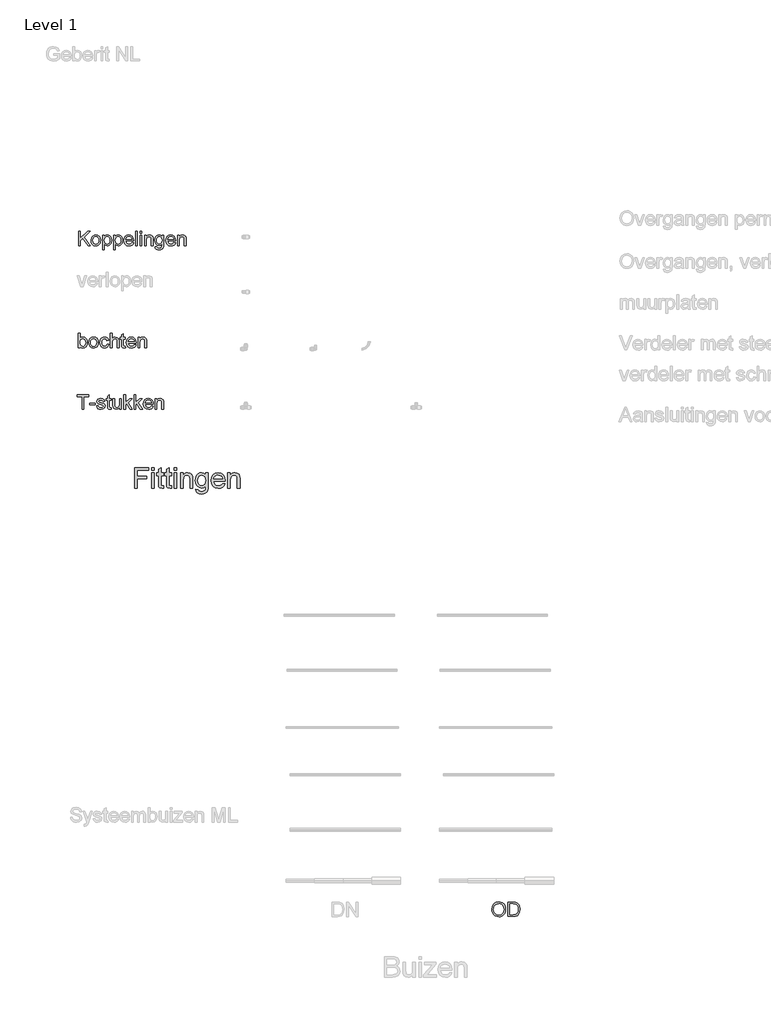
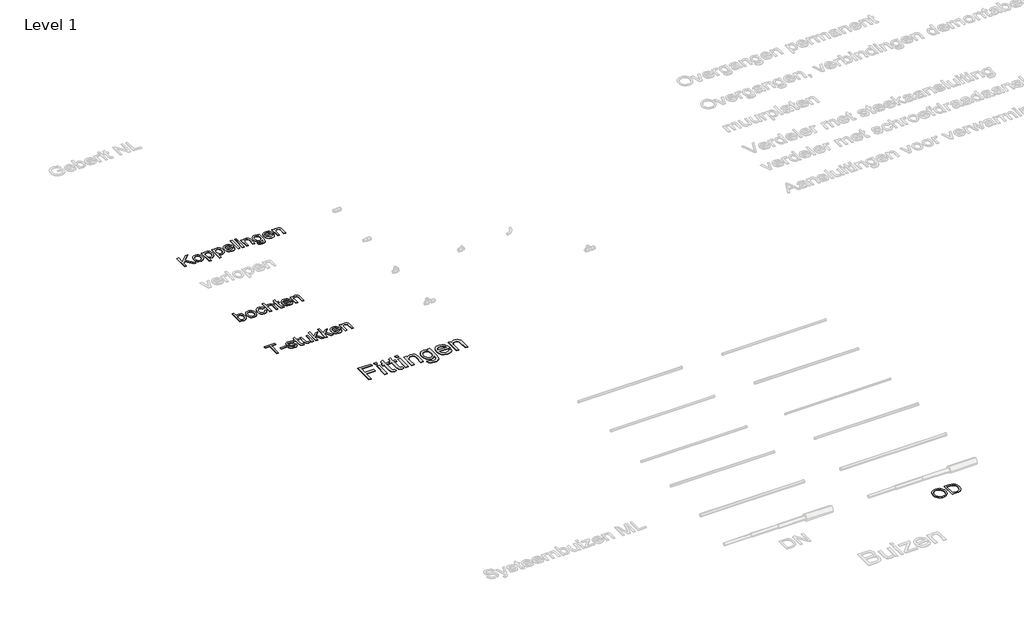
# One storey, part 3 of 9: 5 proxies.
"""IFC4 building model written with IfcOpenShell, lengths in millimetres."""

from ifc_helpers import new_model, si_unit, origin, origin_with_axes, place, context, project, spatial, polyline, outline, extrude, element, save

model = new_model("IFC4")

# Units and contexts
model_context = context("Model", 3, world=origin())
ifc_project = project(units=[si_unit("LENGTHUNIT", "METRE", prefix="MILLI")], contexts=[model_context])

# Site, building, storey
site = spatial("IfcSite", under=ifc_project)
building = spatial("IfcBuilding", under=site)
storey = spatial("IfcBuildingStorey", under=building, Name="Level 1", Elevation=0.0)

# Proxies
placement = place(None, origin())
element("IfcBuildingElementProxy", 1, Name="medium", ObjectType="medium", at=placement, inside=storey, context=model_context, shape_type="SweptSolid", body=[
    extrude(outline(polyline([(-1296.2253301, 3021.7892009), (-1296.2253301, 3222.7018212), (-1161.2371633, 3222.7018212), (-1161.2371633, 3197.5877437), (-1271.1112525, 3197.5877437), (-1271.1112525, 3137.9418095), (-1176.9334618, 3137.9418095), (-1176.9334618, 3112.827732), (-1271.1112525, 3112.827732), (-1271.1112525, 3021.7892009), (-1296.2253301, 3021.7892009)])), origin_with_axes(), (0.0, 0.0, 1.0), 5.0),
    extrude(outline(polyline([(-1129.8445664, 3197.5877437), (-1129.8445664, 3222.7018212), (-1104.7304888, 3222.7018212), (-1104.7304888, 3197.5877437), (-1129.8445664, 3197.5877437)])), origin_with_axes(), (0.0, 0.0, 1.0), 5.0),
    extrude(outline(polyline([(-1129.8445664, 3021.7892009), (-1129.8445664, 3169.3344064), (-1104.7304888, 3169.3344064), (-1104.7304888, 3021.7892009), (-1129.8445664, 3021.7892009)])), origin_with_axes(), (0.0, 0.0, 1.0), 5.0),
    extrude(outline(polyline([(-1013.6919578, 3042.7339492), (-1010.5526981, 3021.0534369), (-1029.3392053, 3018.6499412), (-1050.3820554, 3022.8192705), (-1060.878955, 3033.7576285), (-1063.9201128, 3062.2562204), (-1063.9201128, 3144.2203289), (-1082.755671, 3144.2203289), (-1082.755671, 3169.3344064), (-1063.9201128, 3169.3344064), (-1063.9201128, 3205.1906382), (-1038.8060353, 3219.954969), (-1038.8060353, 3169.3344064), (-1013.6919578, 3169.3344064), (-1013.6919578, 3144.2203289), (-1038.8060353, 3144.2203289), (-1038.8060353, 3062.9919844), (-1037.4816601, 3050.0425381), (-1033.1897035, 3045.4562759), (-1024.6303158, 3043.7640188), (-1013.6919578, 3042.7339492)])), origin_with_axes(), (0.0, 0.0, 1.0), 5.0),
    extrude(outline(polyline([(-935.2104655, 3042.7339492), (-932.0712058, 3021.0534369), (-950.857713, 3018.6499412), (-971.9005631, 3022.8192705), (-982.3974627, 3033.7576285), (-985.4386205, 3062.2562204), (-985.4386205, 3144.2203289), (-1004.2741787, 3144.2203289), (-1004.2741787, 3169.3344064), (-985.4386205, 3169.3344064), (-985.4386205, 3205.1906382), (-960.324543, 3219.954969), (-960.324543, 3169.3344064), (-935.2104655, 3169.3344064), (-935.2104655, 3144.2203289), (-960.324543, 3144.2203289), (-960.324543, 3062.9919844), (-959.0001678, 3050.0425381), (-954.7082112, 3045.4562759), (-946.1488235, 3043.7640188), (-935.2104655, 3042.7339492)])), origin_with_axes(), (0.0, 0.0, 1.0), 5.0),
    extrude(outline(polyline([(-910.0963879, 3197.5877437), (-910.0963879, 3222.7018212), (-884.9823104, 3222.7018212), (-884.9823104, 3197.5877437), (-910.0963879, 3197.5877437)])), origin_with_axes(), (0.0, 0.0, 1.0), 5.0),
    extrude(outline(polyline([(-910.0963879, 3021.7892009), (-910.0963879, 3169.3344064), (-884.9823104, 3169.3344064), (-884.9823104, 3021.7892009), (-910.0963879, 3021.7892009)])), origin_with_axes(), (0.0, 0.0, 1.0), 5.0),
    extrude(outline(polyline([(-847.3111941, 3021.7892009), (-847.3111941, 3169.3344064), (-822.1971165, 3169.3344064), (-822.1971165, 3148.7330147), (-813.4721819, 3159.1195497), (-802.9936764, 3166.5385033), (-790.7616001, 3170.9898754), (-776.7759529, 3172.4736661), (-753.0598269, 3167.6912002), (-736.8730191, 3155.1341614), (-729.343701, 3136.6664853), (-728.0193258, 3112.3862736), (-728.0193258, 3021.7892009), (-753.1334033, 3021.7892009), (-753.1334033, 3109.0017592), (-756.0274083, 3131.2218317), (-766.2545278, 3142.9695301), (-783.4959307, 3147.3595886), (-798.2050791, 3144.8947792), (-810.7437238, 3137.5003511), (-819.3337684, 3123.214267), (-822.1971165, 3100.0744895), (-822.1971165, 3021.7892009), (-847.3111941, 3021.7892009)])), origin_with_axes(), (0.0, 0.0, 1.0), 5.0),
    extrude(outline(polyline([(-699.7659886, 3009.2321621), (-674.651911, 3006.0929025), (-671.8805333, 2998.2447532), (-666.5094562, 2992.8491506), (-655.9512429, 2988.6552959), (-642.1311426, 2987.2573443), (-627.3913374, 2988.8392369), (-616.4284539, 2993.5849146), (-608.8255593, 3001.1878092), (-604.1657207, 3011.3413522), (-602.4489381, 3040.6247591), (-620.1317993, 3026.4980905), (-641.6896842, 3021.7892009), (-667.5824453, 3027.2706426), (-686.8901187, 3043.7149678), (-698.9014659, 3067.8235012), (-702.9052482, 3096.2975677), (-701.1087578, 3116.573997), (-695.7192866, 3135.2194828), (-686.9269069, 3151.0200145), (-674.9216911, 3162.7615815), (-660.1144408, 3170.045645), (-642.9159576, 3172.4736661), (-620.5119441, 3166.9799617), (-602.4489381, 3150.4988483), (-602.4489381, 3169.3344064), (-577.3348606, 3169.3344064), (-577.3348606, 3041.9491342), (-579.0516432, 3012.5369687), (-584.2019911, 2993.1679817), (-593.0740786, 2980.3227687), (-605.9560798, 2970.4819253), (-622.5659519, 2964.2279314), (-642.621652, 2962.1432668), (-665.98829, 2965.0801914), (-684.3885212, 2973.8909651), (-696.1914018, 2988.6001136), (-699.7659886, 3009.2321621)]), holes=[polyline([(-677.7911707, 3098.0143503), (-675.1117635, 3074.978806), (-667.0735419, 3059.1414862), (-654.9886184, 3049.9628304), (-640.1691053, 3046.9032784), (-625.4599569, 3049.9444363), (-613.3137197, 3059.0679098), (-605.1651335, 3074.7028946), (-602.4489381, 3097.2785863), (-605.2448413, 3119.0510691), (-613.6325507, 3134.7289734), (-625.9565976, 3144.2019348), (-640.5615128, 3147.3595886), (-654.9027792, 3144.2509857), (-666.9263891, 3134.9251772), (-675.0749753, 3119.4802647), (-677.7911707, 3098.0143503)])]), origin_with_axes(), (0.0, 0.0, 1.0), 5.0),
    extrude(outline(polyline([(-436.36248, 3065.7388366), (-411.7389118, 3062.5995769), (-420.6109992, 3044.0460616), (-434.7683247, 3030.1769104), (-453.8920571, 3021.5316835), (-477.6633653, 3018.6499412), (-507.1307131, 3023.6224795), (-529.8045068, 3038.5400944), (-544.2622692, 3062.43403), (-549.0815233, 3094.3355304), (-544.2132183, 3127.3100199), (-529.6083031, 3151.9703763), (-507.2410777, 3167.3478437), (-479.0858424, 3172.4736661), (-451.8073924, 3167.3601064), (-430.0103842, 3152.0194272), (-415.7181687, 3127.4081217), (-410.9540969, 3094.4826832), (-411.1012497, 3087.7136544), (-523.9674458, 3087.7136544), (-519.6203069, 3068.9148845), (-509.5219461, 3055.0947842), (-494.9476877, 3046.5967101), (-477.172856, 3043.7640188), (-452.5492878, 3049.0124686), (-443.4012888, 3055.8182855), (-436.36248, 3065.7388366)]), holes=[polyline([(-523.9674458, 3112.827732), (-436.0681744, 3112.827732), (-439.4649515, 3126.0960093), (-446.1236156, 3135.5873648), (-460.765319, 3144.4165326), (-479.1839442, 3147.3595886), (-496.1126474, 3145.0112752), (-510.1105573, 3137.966335), (-519.8410361, 3126.9850574), (-523.9674458, 3112.827732)])]), origin_with_axes(), (0.0, 0.0, 1.0), 5.0),
    extrude(outline(polyline([(-385.8400193, 3021.7892009), (-385.8400193, 3169.3344064), (-360.7259418, 3169.3344064), (-360.7259418, 3148.7330147), (-352.0010071, 3159.1195497), (-341.5225017, 3166.5385033), (-329.2904253, 3170.9898754), (-315.3047781, 3172.4736661), (-291.5886522, 3167.6912002), (-275.4018444, 3155.1341614), (-267.8725262, 3136.6664853), (-266.548151, 3112.3862736), (-266.548151, 3021.7892009), (-291.6622286, 3021.7892009), (-291.6622286, 3109.0017592), (-294.5562336, 3131.2218317), (-304.7833531, 3142.9695301), (-322.0247559, 3147.3595886), (-336.7339043, 3144.8947792), (-349.272549, 3137.5003511), (-357.8625936, 3123.214267), (-360.7259418, 3100.0744895), (-360.7259418, 3021.7892009), (-385.8400193, 3021.7892009)])), origin_with_axes(), (0.0, 0.0, 1.0), 5.0),
])
element("IfcBuildingElementProxy", 2, Name="small", ObjectType="small", at=placement, inside=storey, context=model_context, shape_type="SweptSolid", body=[
    extrude(outline(polyline([(-1846.2047294, 5394.1526751), (-1846.2047294, 5534.7915093), (-1828.6248751, 5534.7915093), (-1828.6248751, 5465.9485253), (-1756.5200041, 5534.7915093), (-1731.9356766, 5534.7915093), (-1792.4694327, 5476.9702698), (-1729.7381948, 5394.1526751), (-1751.2323135, 5394.1526751), (-1804.9332747, 5465.0901339), (-1828.6248751, 5442.4972743), (-1828.6248751, 5394.1526751), (-1846.2047294, 5394.1526751)])), origin_with_axes(), (0.0, 0.0, 1.0), 5.0),
    extrude(outline(polyline([(-1723.1457495, 5445.793497), (-1719.3430759, 5470.6954293), (-1707.9350553, 5488.1980283), (-1693.8402697, 5496.7733576), (-1676.9642964, 5499.6318007), (-1658.4960071, 5496.1510239), (-1643.7445522, 5485.7086935), (-1634.0747739, 5469.1288651), (-1630.8515145, 5447.2355944), (-1632.2764441, 5429.475478), (-1636.5512329, 5415.9558147), (-1643.5514141, 5405.831089), (-1653.1525211, 5398.2557856), (-1664.5562498, 5393.5303414), (-1676.9642964, 5391.9551933), (-1695.6557674, 5395.4230942), (-1710.3900544, 5405.8267971), (-1719.9568257, 5422.7542739), (-1723.1457495, 5445.793497)]), holes=[polyline([(-1705.5658952, 5445.8278327), (-1703.5315078, 5429.9175495), (-1697.4283455, 5418.5824921), (-1688.2435583, 5411.7969087), (-1676.9642964, 5409.5350476), (-1665.7365379, 5411.8097846), (-1656.5689185, 5418.6339956), (-1650.4657562, 5430.1192715), (-1648.4313688, 5446.3772031), (-1650.4786321, 5461.8239549), (-1656.620422, 5473.0045019), (-1665.8009172, 5479.7900853), (-1676.9642964, 5482.0519465), (-1688.2435583, 5479.7986692), (-1697.4283455, 5473.0388376), (-1703.5315078, 5461.7295319), (-1705.5658952, 5445.8278327)])]), origin_with_axes(), (0.0, 0.0, 1.0), 5.0),
    extrude(outline(polyline([(-1611.0741785, 5354.598003), (-1611.0741785, 5497.4343189), (-1593.4943242, 5497.4343189), (-1593.4943242, 5480.1978212), (-1581.3395031, 5494.7733058), (-1564.927061, 5499.6318007), (-1553.0383412, 5497.9321859), (-1542.6432223, 5492.8333415), (-1534.1794838, 5484.6442882), (-1528.0849055, 5473.6740471), (-1523.1749071, 5446.583217), (-1528.720115, 5418.101793), (-1535.5185743, 5406.9255379), (-1544.8235362, 5398.7021491), (-1555.6607267, 5393.6419322), (-1567.0558715, 5391.9551933), (-1582.3524048, 5396.4703316), (-1593.4943242, 5407.8869362), (-1593.4943242, 5354.598003), (-1611.0741785, 5354.598003)]), holes=[polyline([(-1593.4943242, 5444.9694413), (-1591.5929874, 5429.2093767), (-1585.8889771, 5418.1876321), (-1577.4724502, 5411.6981937), (-1567.4335637, 5409.5350476), (-1557.2315828, 5411.7754489), (-1548.6004581, 5418.496653), (-1542.7161855, 5429.9218415), (-1540.7547614, 5446.2741961), (-1542.668974, 5461.9484217), (-1548.411612, 5473.1246767), (-1556.815263, 5479.820129), (-1566.7125149, 5482.0519465), (-1576.6483945, 5479.6784944), (-1585.3739423, 5472.5581384), (-1591.4642287, 5460.9140601), (-1593.4943242, 5444.9694413)])]), origin_with_axes(), (0.0, 0.0, 1.0), 5.0),
    extrude(outline(polyline([(-1503.397571, 5354.598003), (-1503.397571, 5497.4343189), (-1485.8177168, 5497.4343189), (-1485.8177168, 5480.1978212), (-1473.6628956, 5494.7733058), (-1457.2504536, 5499.6318007), (-1445.3617337, 5497.9321859), (-1434.9666148, 5492.8333415), (-1426.5028764, 5484.6442882), (-1420.408298, 5473.6740471), (-1415.4982997, 5446.583217), (-1421.0435076, 5418.101793), (-1427.8419669, 5406.9255379), (-1437.1469288, 5398.7021491), (-1447.9841192, 5393.6419322), (-1459.379264, 5391.9551933), (-1474.6757974, 5396.4703316), (-1485.8177168, 5407.8869362), (-1485.8177168, 5354.598003), (-1503.397571, 5354.598003)]), holes=[polyline([(-1485.8177168, 5444.9694413), (-1483.91638, 5429.2093767), (-1478.2123696, 5418.1876321), (-1469.7958427, 5411.6981937), (-1459.7569562, 5409.5350476), (-1449.5549754, 5411.7754489), (-1440.9238506, 5418.496653), (-1435.0395781, 5429.9218415), (-1433.0781539, 5446.2741961), (-1434.9923666, 5461.9484217), (-1440.7350045, 5473.1246767), (-1449.1386556, 5479.820129), (-1459.0359075, 5482.0519465), (-1468.9717871, 5479.6784944), (-1477.6973349, 5472.5581384), (-1483.7876213, 5460.9140601), (-1485.8177168, 5444.9694413)])]), origin_with_axes(), (0.0, 0.0, 1.0), 5.0),
    extrude(outline(polyline([(-1323.4100786, 5424.9174201), (-1306.1735809, 5422.7199383), (-1312.3840421, 5409.7324776), (-1322.2941699, 5400.0240717), (-1335.6807826, 5393.9724129), (-1352.3206983, 5391.9551933), (-1372.9478418, 5395.4359701), (-1388.8194974, 5405.8783005), (-1398.939931, 5422.6040554), (-1402.3134089, 5444.9351057), (-1398.9055954, 5468.0172483), (-1388.6821548, 5485.2794978), (-1373.025097, 5496.043725), (-1353.3164323, 5499.6318007), (-1334.2215173, 5496.0523089), (-1318.9636116, 5485.3138335), (-1308.9590607, 5468.0859196), (-1305.6242104, 5445.0381126), (-1305.7272174, 5440.2997925), (-1384.7335547, 5440.2997925), (-1381.6905574, 5427.1406536), (-1374.6217049, 5417.4665834), (-1364.419724, 5411.5179315), (-1351.9773418, 5409.5350476), (-1334.7408441, 5413.2089624), (-1323.4100786, 5424.9174201)]), holes=[polyline([(-1384.7335547, 5457.8796468), (-1323.2040647, 5457.8796468), (-1330.2428735, 5473.8113898), (-1340.4920659, 5479.9918073), (-1353.3851036, 5482.0519465), (-1365.2351958, 5480.4081271), (-1375.0337327, 5475.4766689), (-1381.8450679, 5467.7897746), (-1384.7335547, 5457.8796468)])]), origin_with_axes(), (0.0, 0.0, 1.0), 5.0),
    extrude(outline(polyline([(-1288.0443561, 5394.1526751), (-1288.0443561, 5534.7915093), (-1270.4645019, 5534.7915093), (-1270.4645019, 5394.1526751), (-1288.0443561, 5394.1526751)])), origin_with_axes(), (0.0, 0.0, 1.0), 5.0),
    extrude(outline(polyline([(-1244.0947205, 5517.211655), (-1244.0947205, 5534.7915093), (-1226.5148662, 5534.7915093), (-1226.5148662, 5517.211655), (-1244.0947205, 5517.211655)])), origin_with_axes(), (0.0, 0.0, 1.0), 5.0),
    extrude(outline(polyline([(-1244.0947205, 5394.1526751), (-1244.0947205, 5497.4343189), (-1226.5148662, 5497.4343189), (-1226.5148662, 5394.1526751), (-1244.0947205, 5394.1526751)])), origin_with_axes(), (0.0, 0.0, 1.0), 5.0),
    extrude(outline(polyline([(-1200.1450848, 5394.1526751), (-1200.1450848, 5497.4343189), (-1182.5652305, 5497.4343189), (-1182.5652305, 5483.0133447), (-1169.1228224, 5495.4771867), (-1150.7704159, 5499.6318007), (-1134.1691278, 5496.2840746), (-1122.8383623, 5487.4941474), (-1117.5678396, 5474.5667741), (-1116.640777, 5457.5706259), (-1116.640777, 5394.1526751), (-1134.2206312, 5394.1526751), (-1134.2206312, 5455.2014659), (-1136.2464348, 5470.7555167), (-1143.4054184, 5478.9789055), (-1155.4744004, 5482.0519465), (-1165.7708043, 5480.3265799), (-1174.5478555, 5475.1504802), (-1180.5608868, 5465.1502213), (-1182.5652305, 5448.9523771), (-1182.5652305, 5394.1526751), (-1200.1450848, 5394.1526751)])), origin_with_axes(), (0.0, 0.0, 1.0), 5.0),
    extrude(outline(polyline([(-1096.8634409, 5385.3627479), (-1079.2835866, 5383.1652661), (-1073.5838682, 5373.8946399), (-1056.5190488, 5369.9803754), (-1038.5271666, 5374.4096747), (-1029.9432534, 5386.839181), (-1028.7415056, 5407.3375658), (-1041.1195084, 5397.4488977), (-1056.2100279, 5394.1526751), (-1074.3349606, 5397.9896843), (-1087.850332, 5409.5007119), (-1096.258275, 5426.3766853), (-1099.0609227, 5446.3085318), (-1094.0307495, 5473.5538724), (-1087.8760838, 5484.6142445), (-1079.4724327, 5492.8333415), (-1069.1073575, 5497.9321859), (-1057.0684192, 5499.6318007), (-1041.3856098, 5495.7862076), (-1028.7415056, 5484.2494282), (-1028.7415056, 5497.4343189), (-1011.1616513, 5497.4343189), (-1011.1616513, 5408.2646284), (-1012.3633992, 5387.6761125), (-1015.9686427, 5374.1178216), (-1022.1791039, 5365.1261725), (-1031.1965048, 5358.2375822), (-1042.8234152, 5353.8597864), (-1056.8624053, 5352.4005212), (-1073.2190519, 5354.4563684), (-1086.0992137, 5360.62391), (-1094.3612302, 5370.9203139), (-1096.8634409, 5385.3627479)]), holes=[polyline([(-1081.4810684, 5447.5102797), (-1079.6054834, 5431.3853987), (-1073.9787282, 5420.2992747), (-1065.5192818, 5413.8742157), (-1055.1456226, 5411.7325293), (-1044.8492187, 5413.8613398), (-1036.3468527, 5420.2477713), (-1030.6428424, 5431.1922606), (-1028.7415056, 5446.9952449), (-1030.6986378, 5462.2359828), (-1036.5700344, 5473.2105158), (-1045.1968672, 5479.8415888), (-1055.4203079, 5482.0519465), (-1065.4591944, 5479.8759245), (-1073.8757213, 5473.3478584), (-1079.5797316, 5462.5364197), (-1081.4810684, 5447.5102797)])]), origin_with_axes(), (0.0, 0.0, 1.0), 5.0),
    extrude(outline(polyline([(-912.4809849, 5424.9174201), (-895.2444872, 5422.7199383), (-901.4549484, 5409.7324776), (-911.3650762, 5400.0240717), (-924.7516889, 5393.9724129), (-941.3916046, 5391.9551933), (-962.0187481, 5395.4359701), (-977.8904037, 5405.8783005), (-988.0108373, 5422.6040554), (-991.3843152, 5444.9351057), (-987.9765017, 5468.0172483), (-977.753061, 5485.2794978), (-962.0960033, 5496.043725), (-942.3873386, 5499.6318007), (-923.2924236, 5496.0523089), (-908.0345179, 5485.3138335), (-898.029967, 5468.0859196), (-894.6951167, 5445.0381126), (-894.7981237, 5440.2997925), (-973.804461, 5440.2997925), (-970.7614637, 5427.1406536), (-963.6926112, 5417.4665834), (-953.4906303, 5411.5179315), (-941.0482481, 5409.5350476), (-923.8117504, 5413.2089624), (-912.4809849, 5424.9174201)]), holes=[polyline([(-973.804461, 5457.8796468), (-912.274971, 5457.8796468), (-919.3137798, 5473.8113898), (-929.5629722, 5479.9918073), (-942.4560099, 5482.0519465), (-954.3061021, 5480.4081271), (-964.104639, 5475.4766689), (-970.9159742, 5467.7897746), (-973.804461, 5457.8796468)])]), origin_with_axes(), (0.0, 0.0, 1.0), 5.0),
    extrude(outline(polyline([(-877.1152624, 5394.1526751), (-877.1152624, 5497.4343189), (-859.5354082, 5497.4343189), (-859.5354082, 5483.0133447), (-846.0930001, 5495.4771867), (-827.7405936, 5499.6318007), (-811.1393054, 5496.2840746), (-799.80854, 5487.4941474), (-794.5380173, 5474.5667741), (-793.6109546, 5457.5706259), (-793.6109546, 5394.1526751), (-811.1908089, 5394.1526751), (-811.1908089, 5455.2014659), (-813.2166124, 5470.7555167), (-820.3755961, 5478.9789055), (-832.444578, 5482.0519465), (-842.740982, 5480.3265799), (-851.5180332, 5475.1504802), (-857.5310644, 5465.1502213), (-859.5354082, 5448.9523771), (-859.5354082, 5394.1526751), (-877.1152624, 5394.1526751)])), origin_with_axes(), (0.0, 0.0, 1.0), 5.0),
])
element("IfcBuildingElementProxy", 3, Name="small", ObjectType="small", at=placement, inside=storey, context=model_context, shape_type="SweptSolid", body=[
    extrude(outline(polyline([(-1830.8223569, 4394.1526751), (-1848.4022112, 4394.1526751), (-1848.4022112, 4534.7915093), (-1830.8223569, 4534.7915093), (-1830.8223569, 4482.6356526), (-1818.5130254, 4495.3827637), (-1803.216492, 4499.6318007), (-1785.6023021, 4495.8033754), (-1771.9367122, 4485.0391483), (-1763.5416451, 4468.3005175), (-1760.5029398, 4447.3386014), (-1763.648944, 4423.8701826), (-1773.0869566, 4406.4105032), (-1786.9371006, 4395.5690208), (-1803.319499, 4391.9551933), (-1818.9508049, 4396.6162582), (-1830.8223569, 4410.5994528), (-1830.8223569, 4394.1526751)]), holes=[polyline([(-1830.8223569, 4446.5145457), (-1829.6206091, 4431.8532219), (-1826.0153655, 4421.9302183), (-1816.8048266, 4412.6338402), (-1804.8302677, 4409.5350476), (-1794.6840823, 4411.8183685), (-1786.0143299, 4418.6683312), (-1780.0656781, 4430.0420162), (-1778.0827941, 4445.896504), (-1779.9841309, 4461.9827573), (-1785.6881412, 4473.2276837), (-1794.0875003, 4479.8458808), (-1804.0748833, 4482.0519465), (-1814.2210688, 4479.7686255), (-1822.8908211, 4472.9186628), (-1828.839473, 4461.7509917), (-1830.8223569, 4446.5145457)])]), origin_with_axes(), (0.0, 0.0, 1.0), 5.0),
    extrude(outline(polyline([(-1745.1205673, 4445.793497), (-1741.3178938, 4470.6954293), (-1729.9098731, 4488.1980283), (-1715.8150876, 4496.7733576), (-1698.9391142, 4499.6318007), (-1680.4708249, 4496.1510239), (-1665.71937, 4485.7086935), (-1656.0495918, 4469.1288651), (-1652.8263324, 4447.2355944), (-1654.251262, 4429.475478), (-1658.5260508, 4415.9558147), (-1665.526232, 4405.831089), (-1675.1273389, 4398.2557856), (-1686.5310676, 4393.5303414), (-1698.9391142, 4391.9551933), (-1717.6305852, 4395.4230942), (-1732.3648723, 4405.8267971), (-1741.9316436, 4422.7542739), (-1745.1205673, 4445.793497)]), holes=[polyline([(-1727.5407131, 4445.8278327), (-1725.5063256, 4429.9175495), (-1719.4031633, 4418.5824921), (-1710.2183762, 4411.7969087), (-1698.9391142, 4409.5350476), (-1687.7113557, 4411.8097846), (-1678.5437364, 4418.6339956), (-1672.4405741, 4430.1192715), (-1670.4061867, 4446.3772031), (-1672.45345, 4461.8239549), (-1678.5952399, 4473.0045019), (-1687.7757351, 4479.7900853), (-1698.9391142, 4482.0519465), (-1710.2183762, 4479.7986692), (-1719.4031633, 4473.0388376), (-1725.5063256, 4461.7295319), (-1727.5407131, 4445.8278327)])]), origin_with_axes(), (0.0, 0.0, 1.0), 5.0),
    extrude(outline(polyline([(-1567.1245428, 4431.5098654), (-1549.5446885, 4429.3123836), (-1554.446103, 4413.6767857), (-1563.6566418, 4401.8610291), (-1576.3093299, 4394.4316523), (-1591.537192, 4391.9551933), (-1610.2372469, 4395.4102184), (-1624.8599431, 4405.7752936), (-1634.2979557, 4422.5954715), (-1637.4439599, 4445.4158048), (-1632.0704302, 4474.6182776), (-1625.2891388, 4485.5670589), (-1615.6923238, 4493.3827119), (-1604.2113399, 4498.0695285), (-1591.7775416, 4499.6318007), (-1576.9230797, 4497.4858224), (-1565.0472358, 4491.0478875), (-1556.5277019, 4480.6613525), (-1551.7421703, 4466.669574), (-1569.3220246, 4464.4720922), (-1577.4767421, 4477.6398151), (-1591.6401989, 4482.0519465), (-1603.0010081, 4479.8802164), (-1612.0184089, 4473.3650263), (-1617.9026814, 4462.1544356), (-1619.8641056, 4445.896504), (-1617.945601, 4429.4196825), (-1612.1900872, 4418.1704643), (-1603.3357807, 4411.6939017), (-1592.1208981, 4409.5350476), (-1575.5539456, 4414.9257451), (-1570.1246205, 4421.7671239), (-1567.1245428, 4431.5098654)])), origin_with_axes(), (0.0, 0.0, 1.0), 5.0),
    extrude(outline(polyline([(-1534.162316, 4394.1526751), (-1534.162316, 4534.7915093), (-1516.5824617, 4534.7915093), (-1516.5824617, 4483.082016), (-1502.8739523, 4495.4943546), (-1485.989395, 4499.6318007), (-1466.2463946, 4495.1166624), (-1454.2632518, 4482.6356526), (-1450.6580082, 4459.5277582), (-1450.6580082, 4394.1526751), (-1468.2378625, 4394.1526751), (-1468.2378625, 4457.7079686), (-1469.6370403, 4468.7125453), (-1473.8345739, 4476.2492211), (-1480.5986975, 4480.6012651), (-1489.6976455, 4482.0519465), (-1504.1014519, 4478.137682), (-1513.7154347, 4467.5279653), (-1516.5824617, 4449.0210484), (-1516.5824617, 4394.1526751), (-1534.162316, 4394.1526751)])), origin_with_axes(), (0.0, 0.0, 1.0), 5.0),
    extrude(outline(polyline([(-1389.1285182, 4408.8139989), (-1386.9310365, 4393.6376403), (-1400.0815915, 4391.9551933), (-1414.8115866, 4394.8737238), (-1422.1594163, 4402.5305744), (-1424.2882268, 4422.4795887), (-1424.2882268, 4479.8544647), (-1437.4731175, 4479.8544647), (-1437.4731175, 4497.4343189), (-1424.2882268, 4497.4343189), (-1424.2882268, 4522.5336812), (-1406.7083725, 4532.8687127), (-1406.7083725, 4497.4343189), (-1389.1285182, 4497.4343189), (-1389.1285182, 4479.8544647), (-1406.7083725, 4479.8544647), (-1406.7083725, 4422.9946235), (-1405.7813099, 4413.9300111), (-1402.7769403, 4410.7196276), (-1396.7853688, 4409.5350476), (-1389.1285182, 4408.8139989)])), origin_with_axes(), (0.0, 0.0, 1.0), 5.0),
    extrude(outline(polyline([(-1299.237779, 4424.9174201), (-1282.0012812, 4422.7199383), (-1288.2117425, 4409.7324776), (-1298.1218703, 4400.0240717), (-1311.5084829, 4393.9724129), (-1328.1483987, 4391.9551933), (-1348.7755422, 4395.4359701), (-1364.6471977, 4405.8783005), (-1374.7676314, 4422.6040554), (-1378.1411093, 4444.9351057), (-1374.7332958, 4468.0172483), (-1364.5098551, 4485.2794978), (-1348.8527974, 4496.043725), (-1329.1441327, 4499.6318007), (-1310.0492177, 4496.0523089), (-1294.7913119, 4485.3138335), (-1284.7867611, 4468.0859196), (-1281.4519108, 4445.0381126), (-1281.5549178, 4440.2997925), (-1360.561255, 4440.2997925), (-1357.5182578, 4427.1406536), (-1350.4494053, 4417.4665834), (-1340.2474244, 4411.5179315), (-1327.8050422, 4409.5350476), (-1310.5685444, 4413.2089624), (-1299.237779, 4424.9174201)]), holes=[polyline([(-1360.561255, 4457.8796468), (-1299.0317651, 4457.8796468), (-1306.0705739, 4473.8113898), (-1316.3197663, 4479.9918073), (-1329.212804, 4482.0519465), (-1341.0628962, 4480.4081271), (-1350.8614331, 4475.4766689), (-1357.6727682, 4467.7897746), (-1360.561255, 4457.8796468)])]), origin_with_axes(), (0.0, 0.0, 1.0), 5.0),
    extrude(outline(polyline([(-1263.8720565, 4394.1526751), (-1263.8720565, 4497.4343189), (-1246.2922022, 4497.4343189), (-1246.2922022, 4483.0133447), (-1232.8497941, 4495.4771867), (-1214.4973877, 4499.6318007), (-1197.8960995, 4496.2840746), (-1186.5653341, 4487.4941474), (-1181.2948113, 4474.5667741), (-1180.3677487, 4457.5706259), (-1180.3677487, 4394.1526751), (-1197.947603, 4394.1526751), (-1197.947603, 4455.2014659), (-1199.9734065, 4470.7555167), (-1207.1323901, 4478.9789055), (-1219.2013721, 4482.0519465), (-1229.497776, 4480.3265799), (-1238.2748273, 4475.1504802), (-1244.2878585, 4465.1502213), (-1246.2922022, 4448.9523771), (-1246.2922022, 4394.1526751), (-1263.8720565, 4394.1526751)])), origin_with_axes(), (0.0, 0.0, 1.0), 5.0),
])
element("IfcBuildingElementProxy", 4, Name="small", ObjectType="small", at=placement, inside=storey, context=model_context, shape_type="SweptSolid", body=[
    extrude(outline(polyline([(-1811.0450209, 3794.1526751), (-1811.0450209, 3917.211655), (-1857.1921383, 3917.211655), (-1857.1921383, 3934.7915093), (-1747.3180491, 3934.7915093), (-1747.3180491, 3917.211655), (-1793.4651666, 3917.211655), (-1793.4651666, 3794.1526751), (-1811.0450209, 3794.1526751)])), origin_with_axes(), (0.0, 0.0, 1.0), 5.0),
    extrude(outline(polyline([(-1738.528122, 3835.904829), (-1738.528122, 3853.4846833), (-1683.5910774, 3853.4846833), (-1683.5910774, 3835.904829), (-1738.528122, 3835.904829)])), origin_with_axes(), (0.0, 0.0, 1.0), 5.0),
    extrude(outline(polyline([(-1670.4061867, 3824.9174201), (-1652.8263324, 3827.1149018), (-1650.0537284, 3819.5953939), (-1644.6887826, 3814.0673537), (-1626.0445231, 3809.5350476), (-1608.1213123, 3813.6896616), (-1602.2842513, 3823.440987), (-1608.155648, 3831.3381871), (-1626.250537, 3836.3511925), (-1652.7233254, 3844.9522735), (-1664.2772726, 3854.995452), (-1668.2087049, 3869.1760766), (-1665.0498248, 3882.2751282), (-1656.4315759, 3892.283971), (-1645.2553209, 3897.4858224), (-1630.1304658, 3899.6318007), (-1608.7393541, 3896.1810676), (-1595.1424355, 3886.84177), (-1589.0993606, 3871.0645375), (-1606.6792149, 3868.8670557), (-1613.2888281, 3878.5668777), (-1628.7570397, 3882.0519465), (-1645.5815096, 3878.7213881), (-1650.6288506, 3870.9615306), (-1648.5343758, 3865.8455183), (-1641.9762661, 3861.9655895), (-1626.8342431, 3858.2230034), (-1601.031, 3849.948111), (-1589.0478572, 3840.5744778), (-1584.7043971, 3825.2951122), (-1589.8032415, 3808.4706423), (-1604.5160688, 3796.2643177), (-1626.2848727, 3791.9551933), (-1644.0106535, 3794.0325003), (-1656.9466107, 3800.2644213), (-1665.5820274, 3810.582285), (-1670.4061867, 3824.9174201)])), origin_with_axes(), (0.0, 0.0, 1.0), 5.0),
    extrude(outline(polyline([(-1527.5698707, 3808.8139989), (-1525.3723889, 3793.6376403), (-1538.5229439, 3791.9551933), (-1553.252939, 3794.8737238), (-1560.6007687, 3802.5305744), (-1562.7295792, 3822.4795887), (-1562.7295792, 3879.8544647), (-1575.9144699, 3879.8544647), (-1575.9144699, 3897.4343189), (-1562.7295792, 3897.4343189), (-1562.7295792, 3922.5336812), (-1545.1497249, 3932.8687127), (-1545.1497249, 3897.4343189), (-1527.5698707, 3897.4343189), (-1527.5698707, 3879.8544647), (-1545.1497249, 3879.8544647), (-1545.1497249, 3822.9946235), (-1544.2226623, 3813.9300111), (-1541.2182927, 3810.7196276), (-1535.2267213, 3809.5350476), (-1527.5698707, 3808.8139989)])), origin_with_axes(), (0.0, 0.0, 1.0), 5.0),
    extrude(outline(polyline([(-1444.0655629, 3794.1526751), (-1444.0655629, 3811.9042076), (-1457.8341597, 3796.9424469), (-1475.7917061, 3791.9551933), (-1492.324323, 3795.4574299), (-1503.7237597, 3804.247357), (-1508.9599468, 3817.1918982), (-1509.9900164, 3833.5356689), (-1509.9900164, 3897.4343189), (-1492.4101621, 3897.4343189), (-1492.4101621, 3841.8105613), (-1491.3457569, 3823.8873505), (-1484.3927872, 3813.3634729), (-1471.2937356, 3809.5350476), (-1456.615244, 3813.449312), (-1446.915422, 3824.1105322), (-1444.0655629, 3843.6990222), (-1444.0655629, 3897.4343189), (-1426.4857086, 3897.4343189), (-1426.4857086, 3794.1526751), (-1444.0655629, 3794.1526751)])), origin_with_axes(), (0.0, 0.0, 1.0), 5.0),
    extrude(outline(polyline([(-1402.3134089, 3794.1526751), (-1402.3134089, 3934.7915093), (-1384.7335547, 3934.7915093), (-1384.7335547, 3859.2187373), (-1345.3162252, 3897.4343189), (-1321.0065829, 3897.4343189), (-1360.9046116, 3858.7380381), (-1318.8091011, 3794.1526751), (-1339.3418216, 3794.1526751), (-1373.5057962, 3846.5145457), (-1384.7335547, 3835.6301438), (-1384.7335547, 3794.1526751), (-1402.3134089, 3794.1526751)])), origin_with_axes(), (0.0, 0.0, 1.0), 5.0),
    extrude(outline(polyline([(-1303.4267286, 3794.1526751), (-1303.4267286, 3934.7915093), (-1285.8468744, 3934.7915093), (-1285.8468744, 3859.2187373), (-1246.4295449, 3897.4343189), (-1222.1199026, 3897.4343189), (-1262.0179313, 3858.7380381), (-1219.9224208, 3794.1526751), (-1240.4551413, 3794.1526751), (-1274.6191159, 3846.5145457), (-1285.8468744, 3835.6301438), (-1285.8468744, 3794.1526751), (-1303.4267286, 3794.1526751)])), origin_with_axes(), (0.0, 0.0, 1.0), 5.0),
    extrude(outline(polyline([(-1132.2291634, 3824.9174201), (-1114.9926656, 3822.7199383), (-1121.2031268, 3809.7324776), (-1131.1132546, 3800.0240717), (-1144.4998673, 3793.9724129), (-1161.1397831, 3791.9551933), (-1181.7669266, 3795.4359701), (-1197.6385821, 3805.8783005), (-1207.7590158, 3822.6040554), (-1211.1324937, 3844.9351057), (-1207.7246801, 3868.0172483), (-1197.5012395, 3885.2794978), (-1181.8441818, 3896.043725), (-1162.135517, 3899.6318007), (-1143.0406021, 3896.0523089), (-1127.7826963, 3885.3138335), (-1117.7781455, 3868.0859196), (-1114.4432952, 3845.0381126), (-1114.5463021, 3840.2997925), (-1193.5526394, 3840.2997925), (-1190.5096422, 3827.1406536), (-1183.4407896, 3817.4665834), (-1173.2388088, 3811.5179315), (-1160.7964266, 3809.5350476), (-1143.5599288, 3813.2089624), (-1132.2291634, 3824.9174201)]), holes=[polyline([(-1193.5526394, 3857.8796468), (-1132.0231494, 3857.8796468), (-1139.0619583, 3873.8113898), (-1149.3111507, 3879.9918073), (-1162.2041883, 3882.0519465), (-1174.0542805, 3880.4081271), (-1183.8528175, 3875.4766689), (-1190.6641526, 3867.7897746), (-1193.5526394, 3857.8796468)])]), origin_with_axes(), (0.0, 0.0, 1.0), 5.0),
    extrude(outline(polyline([(-1096.8634409, 3794.1526751), (-1096.8634409, 3897.4343189), (-1079.2835866, 3897.4343189), (-1079.2835866, 3883.0133447), (-1065.8411785, 3895.4771867), (-1047.4887721, 3899.6318007), (-1030.8874839, 3896.2840746), (-1019.5567184, 3887.4941474), (-1014.2861957, 3874.5667741), (-1013.3591331, 3857.5706259), (-1013.3591331, 3794.1526751), (-1030.9389874, 3794.1526751), (-1030.9389874, 3855.2014659), (-1032.9647909, 3870.7555167), (-1040.1237745, 3878.9789055), (-1052.1927565, 3882.0519465), (-1062.4891604, 3880.3265799), (-1071.2662117, 3875.1504802), (-1077.2792429, 3865.1502213), (-1079.2835866, 3848.9523771), (-1079.2835866, 3794.1526751), (-1096.8634409, 3794.1526751)])), origin_with_axes(), (0.0, 0.0, 1.0), 5.0),
])
element("IfcBuildingElementProxy", 5, Name="small", ObjectType="small", at=placement, inside=storey, context=model_context, shape_type="SweptSolid", body=[
    extrude(outline(polyline([(2201.5797806, -1102.8459471), (2206.2665973, -1071.7464295), (2220.3270471, -1048.2179234), (2241.7954141, -1033.4106731), (2268.705982, -1028.474923), (2287.1528115, -1030.7925796), (2303.6940123, -1037.7455493), (2317.4282735, -1048.8445491), (2327.4542841, -1063.6002959), (2333.5831982, -1081.3003249), (2335.6261695, -1101.2321714), (2333.4758992, -1121.4301193), (2327.0250885, -1139.3790818), (2316.6299695, -1154.1605804), (2302.6467749, -1164.8561362), (2286.2472087, -1171.3455746), (2268.6029751, -1173.5087208), (2249.8728764, -1171.1181009), (2233.2372526, -1163.9462414), (2219.5373271, -1152.6412277), (2209.6143234, -1137.8511452), (2203.5884163, -1120.8335373), (2201.5797806, -1102.8459471)]), holes=[polyline([(2219.1596349, -1103.0176254), (2222.6747474, -1125.018195), (2233.2200848, -1141.7825775), (2249.0702805, -1152.3922942), (2268.4999681, -1155.9288665), (2288.2129248, -1152.3579586), (2304.0888723, -1141.6452349), (2314.5569545, -1124.3658176), (2318.0463152, -1101.0948288), (2316.5527143, -1085.5321942), (2312.0719116, -1072.0812021), (2304.7197899, -1061.0809174), (2294.6122321, -1052.8704044), (2282.4187834, -1047.758684), (2268.808989, -1046.0547773), (2249.8986282, -1049.3381241), (2233.8209587, -1059.1881645), (2222.8249659, -1076.7122233), (2219.1596349, -1103.0176254)])]), origin_with_axes(), (0.0, 0.0, 1.0), 5.0),
    extrude(outline(polyline([(2359.7984691, -1171.311239), (2359.7984691, -1030.6724048), (2408.3147467, -1030.6724048), (2433.4141089, -1032.6982083), (2454.0841719, -1042.7585546), (2463.8097456, -1053.4712783), (2470.7369636, -1066.7935116), (2476.2650037, -1100.2364375), (2472.5224175, -1128.6148546), (2462.9084347, -1149.0960716), (2450.0669006, -1161.8517666), (2433.2595985, -1168.9077433), (2410.649571, -1171.311239), (2359.7984691, -1171.311239)]), holes=[polyline([(2377.3783234, -1153.7313847), (2408.4864249, -1153.7313847), (2431.1136202, -1151.1905464), (2444.1611683, -1144.0143949), (2454.8567241, -1126.5547154), (2458.6851494, -1099.9617523), (2456.8095644, -1080.802458), (2451.1828093, -1066.656169), (2442.8692893, -1056.9391792), (2432.9334098, -1051.0677826), (2408.0057258, -1048.252259), (2377.3783234, -1048.252259), (2377.3783234, -1153.7313847)])]), origin_with_axes(), (0.0, 0.0, 1.0), 5.0),
])

save(model, "model.ifc")
